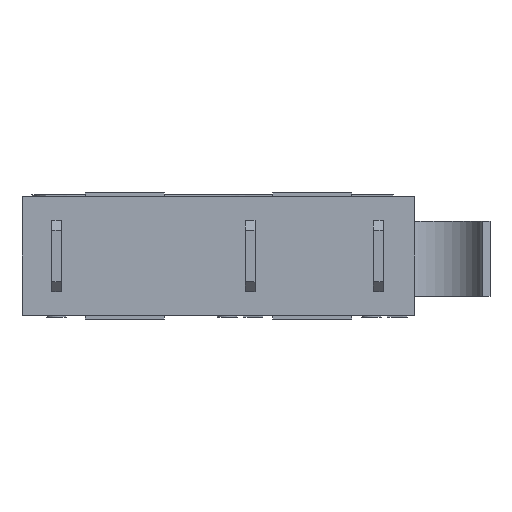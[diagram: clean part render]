
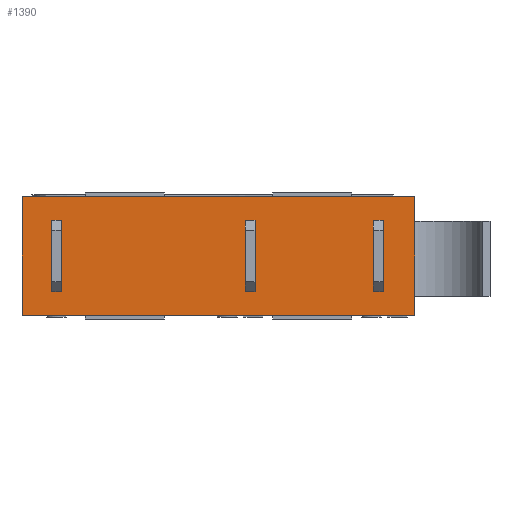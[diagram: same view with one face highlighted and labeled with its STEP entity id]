
A CAD part, front view. The second image highlights one B-rep face of the part: STEP entity #1390.
In plain terms, the highlighted planar face has unit normal (0, -1, 0).
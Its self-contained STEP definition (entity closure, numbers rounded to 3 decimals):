
#485=CARTESIAN_POINT('',(7.85,-5.0,2.4));
#486=VERTEX_POINT('',#485);
#487=CARTESIAN_POINT('',(8.35,-5.0,2.4));
#488=VERTEX_POINT('',#487);
#489=CARTESIAN_POINT('',(7.85,-5.,2.4));
#490=DIRECTION('',(1.0,0.0,0.0));
#491=VECTOR('',#490,0.5);
#492=LINE('',#489,#491);
#493=EDGE_CURVE('',#486,#488,#492,.T.);
#525=CARTESIAN_POINT('',(7.85,-5.0,-1.2));
#526=VERTEX_POINT('',#525);
#527=CARTESIAN_POINT('',(7.85,-5.0,2.4));
#528=DIRECTION('',(0.0,0.0,-1.0));
#529=VECTOR('',#528,3.6);
#530=LINE('',#527,#529);
#531=EDGE_CURVE('',#486,#526,#530,.T.);
#583=CARTESIAN_POINT('',(8.35,-5.0,-1.2));
#584=VERTEX_POINT('',#583);
#585=CARTESIAN_POINT('',(7.85,-5.0,-1.2));
#586=DIRECTION('',(1.0,0.0,0.0));
#587=VECTOR('',#586,0.5);
#588=LINE('',#585,#587);
#589=EDGE_CURVE('',#526,#584,#588,.T.);
#614=CARTESIAN_POINT('',(8.35,-5.0,2.4));
#615=DIRECTION('',(0.0,0.0,-1.0));
#616=VECTOR('',#615,3.6);
#617=LINE('',#614,#616);
#618=EDGE_CURVE('',#488,#584,#617,.T.);
#721=CARTESIAN_POINT('',(1.35,-5.,2.4));
#722=VERTEX_POINT('',#721);
#723=CARTESIAN_POINT('',(1.85,-5.0,2.4));
#724=VERTEX_POINT('',#723);
#725=CARTESIAN_POINT('',(1.35,-5.0,2.4));
#726=DIRECTION('',(1.0,0.0,0.0));
#727=VECTOR('',#726,0.5);
#728=LINE('',#725,#727);
#729=EDGE_CURVE('',#722,#724,#728,.T.);
#761=CARTESIAN_POINT('',(1.35,-5.0,-1.2));
#762=VERTEX_POINT('',#761);
#763=CARTESIAN_POINT('',(1.35,-5.,2.4));
#764=DIRECTION('',(0.0,0.0,-1.0));
#765=VECTOR('',#764,3.6);
#766=LINE('',#763,#765);
#767=EDGE_CURVE('',#722,#762,#766,.T.);
#819=CARTESIAN_POINT('',(1.85,-5.0,-1.2));
#820=VERTEX_POINT('',#819);
#821=CARTESIAN_POINT('',(1.35,-5.0,-1.2));
#822=DIRECTION('',(1.0,0.0,0.0));
#823=VECTOR('',#822,0.5);
#824=LINE('',#821,#823);
#825=EDGE_CURVE('',#762,#820,#824,.T.);
#850=CARTESIAN_POINT('',(1.85,-5.0,2.4));
#851=DIRECTION('',(0.0,0.0,-1.0));
#852=VECTOR('',#851,3.6);
#853=LINE('',#850,#852);
#854=EDGE_CURVE('',#724,#820,#853,.T.);
#957=CARTESIAN_POINT('',(-8.45,-5.0,2.4));
#958=VERTEX_POINT('',#957);
#959=CARTESIAN_POINT('',(-7.95,-5.,2.4));
#960=VERTEX_POINT('',#959);
#961=CARTESIAN_POINT('',(-8.45,-5.,2.4));
#962=DIRECTION('',(1.0,0.0,0.0));
#963=VECTOR('',#962,0.5);
#964=LINE('',#961,#963);
#965=EDGE_CURVE('',#958,#960,#964,.T.);
#997=CARTESIAN_POINT('',(-8.45,-5.0,-1.2));
#998=VERTEX_POINT('',#997);
#999=CARTESIAN_POINT('',(-8.45,-5.0,-1.2));
#1000=DIRECTION('',(0.0,0.0,1.0));
#1001=VECTOR('',#1000,3.6);
#1002=LINE('',#999,#1001);
#1003=EDGE_CURVE('',#998,#958,#1002,.T.);
#1055=CARTESIAN_POINT('',(-7.95,-5.0,-1.2));
#1056=VERTEX_POINT('',#1055);
#1057=CARTESIAN_POINT('',(-8.45,-5.0,-1.2));
#1058=DIRECTION('',(1.0,0.0,0.0));
#1059=VECTOR('',#1058,0.5);
#1060=LINE('',#1057,#1059);
#1061=EDGE_CURVE('',#998,#1056,#1060,.T.);
#1086=CARTESIAN_POINT('',(-7.95,-5.,2.4));
#1087=DIRECTION('',(0.0,0.0,-1.0));
#1088=VECTOR('',#1087,3.6);
#1089=LINE('',#1086,#1088);
#1090=EDGE_CURVE('',#960,#1056,#1089,.T.);
#1333=CARTESIAN_POINT('',(9.95,-5.0,-2.4));
#1334=DIRECTION('',(0.0,-1.0,0.0));
#1335=DIRECTION('',(0.0,0.0,-1.0));
#1336=AXIS2_PLACEMENT_3D('',#1333,#1334,#1335);
#1337=PLANE('',#1336);
#1338=CARTESIAN_POINT('',(9.95,-5.,3.6));
#1339=VERTEX_POINT('',#1338);
#1340=CARTESIAN_POINT('',(-9.95,-5.,3.6));
#1341=VERTEX_POINT('',#1340);
#1342=CARTESIAN_POINT('',(9.95,-5.,3.6));
#1343=DIRECTION('',(-1.0,0.0,0.0));
#1344=VECTOR('',#1343,19.9);
#1345=LINE('',#1342,#1344);
#1346=EDGE_CURVE('',#1339,#1341,#1345,.T.);
#1347=ORIENTED_EDGE('',*,*,#1346,.T.);
#1348=CARTESIAN_POINT('',(-9.95,-5.0,-2.4));
#1349=VERTEX_POINT('',#1348);
#1350=CARTESIAN_POINT('',(-9.95,-5.0,-2.4));
#1351=DIRECTION('',(0.0,0.0,1.0));
#1352=VECTOR('',#1351,6.0);
#1353=LINE('',#1350,#1352);
#1354=EDGE_CURVE('',#1349,#1341,#1353,.T.);
#1355=ORIENTED_EDGE('',*,*,#1354,.F.);
#1356=CARTESIAN_POINT('',(9.95,-5.0,-2.4));
#1357=VERTEX_POINT('',#1356);
#1358=CARTESIAN_POINT('',(-9.95,-5.0,-2.4));
#1359=DIRECTION('',(1.0,0.0,0.0));
#1360=VECTOR('',#1359,19.9);
#1361=LINE('',#1358,#1360);
#1362=EDGE_CURVE('',#1349,#1357,#1361,.T.);
#1363=ORIENTED_EDGE('',*,*,#1362,.T.);
#1364=CARTESIAN_POINT('',(9.95,-5.,-2.4));
#1365=DIRECTION('',(0.0,0.0,1.0));
#1366=VECTOR('',#1365,6.0);
#1367=LINE('',#1364,#1366);
#1368=EDGE_CURVE('',#1357,#1339,#1367,.T.);
#1369=ORIENTED_EDGE('',*,*,#1368,.T.);
#1370=EDGE_LOOP('',(#1347,#1355,#1363,#1369));
#1371=FACE_OUTER_BOUND('',#1370,.T.);
#1372=ORIENTED_EDGE('',*,*,#1090,.T.);
#1373=ORIENTED_EDGE('',*,*,#1061,.F.);
#1374=ORIENTED_EDGE('',*,*,#1003,.T.);
#1375=ORIENTED_EDGE('',*,*,#965,.T.);
#1376=EDGE_LOOP('',(#1372,#1373,#1374,#1375));
#1377=FACE_BOUND('',#1376,.T.);
#1378=ORIENTED_EDGE('',*,*,#854,.T.);
#1379=ORIENTED_EDGE('',*,*,#825,.F.);
#1380=ORIENTED_EDGE('',*,*,#767,.F.);
#1381=ORIENTED_EDGE('',*,*,#729,.T.);
#1382=EDGE_LOOP('',(#1378,#1379,#1380,#1381));
#1383=FACE_BOUND('',#1382,.T.);
#1384=ORIENTED_EDGE('',*,*,#531,.F.);
#1385=ORIENTED_EDGE('',*,*,#493,.T.);
#1386=ORIENTED_EDGE('',*,*,#618,.T.);
#1387=ORIENTED_EDGE('',*,*,#589,.F.);
#1388=EDGE_LOOP('',(#1384,#1385,#1386,#1387));
#1389=FACE_BOUND('',#1388,.T.);
#1390=ADVANCED_FACE('',(#1371,#1377,#1383,#1389),#1337,.T.);
